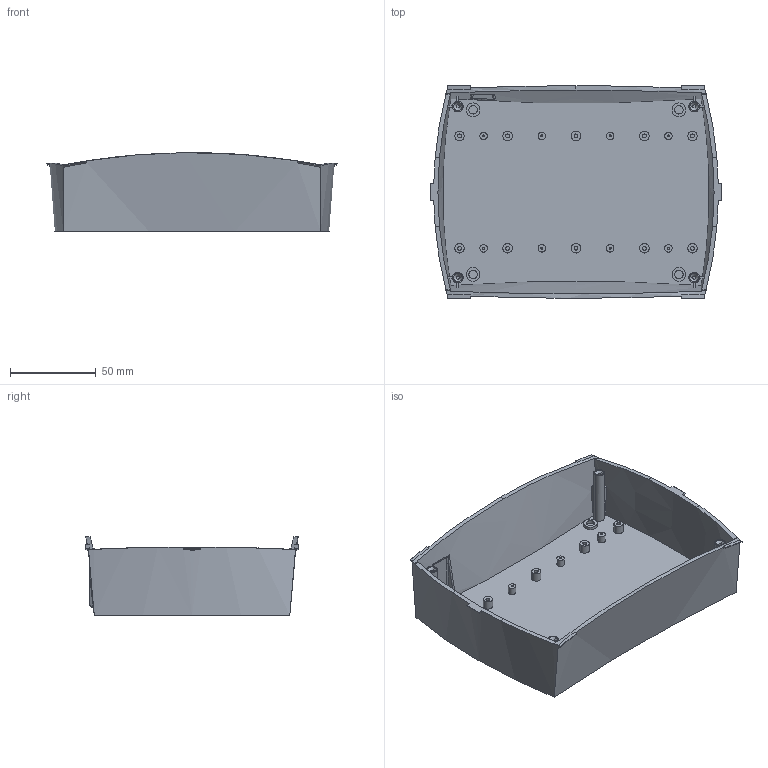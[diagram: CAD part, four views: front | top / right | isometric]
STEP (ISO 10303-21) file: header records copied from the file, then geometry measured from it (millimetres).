
FILE_DESCRIPTION (( 'STEP AP214' ), '1' );
FILE_NAME ('Base PP109.STEP', '2018-03-27T15:33:47', ( 'aaa' ), ( '' ), 'SwSTEP 2.0', 'SolidWorks 2013', '' );
FILE_SCHEMA (( 'AUTOMOTIVE_DESIGN' ));
Length unit declared in the file: millimetre
Products named in the file (1): Base PP109
Bounding box: 170 x 123.99 x 46 mm (x, y, z)
Volume: 101519.9 mm3; surface area: 84133.6 mm2
Topology: 1 solids, 1 shells, 377 faces, 911 edges, 571 vertices
Faces by surface type: cylinder 149, plane 134, bspline 69, cone 12, torus 8, sphere 5
Entity records: 12626 total; most frequent: CARTESIAN_POINT 4374, ORIENTED_EDGE 1784, DIRECTION 1587, EDGE_CURVE 892, AXIS2_PLACEMENT_3D 642, VERTEX_POINT 571, EDGE_LOOP 431, ADVANCED_FACE 377
